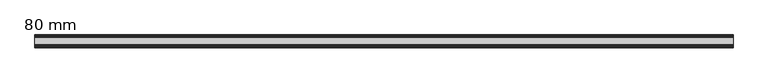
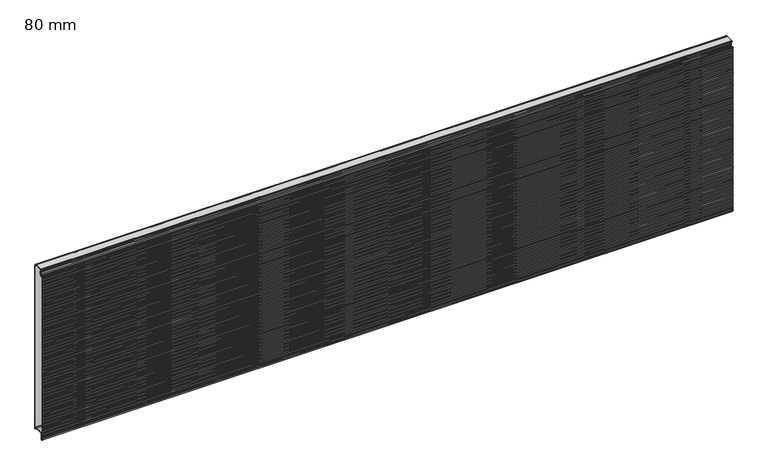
"""IFC4 building model written with IfcOpenShell, lengths in millimetres: plate geometry, HIANSA PANEL - H20.F05.001-HFM-PANELES DE FACHADA HOR - PANEL MICROPERFILADO - Panel de Muro Cortina : 80 mm."""

from ifc_helpers import new_model, si_unit, point, frame, frame_2d, origin, place, context, project, spatial, polyline, circle_curve, trimmed, segment, composite_curve, outline, extrude, source, transform, mapped, element, save


def plate_80_mm_c5f50b2e(model_context):
    return source(origin(), model_context, "Body", "SweptSolid", [
        extrude(outline(polyline([(-64.0928552, 1122.4810465), (-63.2950639, 1122.9800953), (-13.698739, 1122.9800953), (-12.9009477, 1122.4810465), (-64.0928552, 1122.4810465)])), frame((-2200.0, 0.0, 0.0), z_axis=(1.0, 0.0, 0.0), x_axis=(0.0, 1.0, 0.0)), (0.0, 0.0, 1.0), 4400.0),
        extrude(outline(polyline([(-64.0762276, 25.6210466), (-12.9205792, 25.6210466), (-13.7002597, 25.1210465), (-63.2965471, 25.1210465), (-64.0762276, 25.6210466)])), frame((-2200.0, 0.0, 0.0), z_axis=(1.0, 0.0, 0.0), x_axis=(0.0, 1.0, 0.0)), (0.0, 0.0, 1.0), 4400.0),
        extrude(outline(composite_curve([segment(polyline([(-69.4621895, -19.2009512), (-69.4621895, 22.7800953)]), True, "CONTINUOUS"), segment(trimmed(circle_curve(frame_2d((-66.6221895, 22.7800953)), 2.84), [point((-69.4621895, 22.7800953))], [point((-66.6221895, 25.6200953))], False, "CARTESIAN"), True, "CONTINUOUS"), segment(polyline([(-66.6221895, 25.6200953), (-64.0747442, 25.6200953), (-63.2950639, 25.1200953), (-66.6221895, 25.1200953)]), True, "CONTINUOUS"), segment(trimmed(circle_curve(frame_2d((-66.6221895, 22.7800953)), 2.34), [point((-66.6221895, 25.1200953))], [point((-68.9621895, 22.7800953))], True, "CARTESIAN"), True, "CONTINUOUS"), segment(polyline([(-68.9621895, 22.7800953), (-68.9621895, -19.0009512)]), True, "CONTINUOUS"), segment(trimmed(circle_curve(frame_2d((-69.6621895, -19.0009512)), 0.7), [point((-68.9621895, -19.0009512))], [point((-69.6621895, -19.7009512))], False, "CARTESIAN"), True, "CONTINUOUS"), segment(polyline([(-69.6621895, -19.7009512), (-73.4121895, -19.7009512)]), True, "CONTINUOUS"), segment(trimmed(circle_curve(frame_2d((-73.4121895, -19.0009512)), 0.7), [point((-73.4121895, -19.7009512))], [point((-74.1121895, -19.0009512))], False, "CARTESIAN"), True, "CONTINUOUS"), segment(polyline([(-74.1121895, -19.0009512), (-74.1121895, -10.8354413)]), True, "CONTINUOUS"), segment(trimmed(circle_curve(frame_2d((-75.4121895, -10.8354413)), 1.3), [point((-74.1121895, -10.8354413))], [point((-75.4121895, -9.5354413))], True, "CARTESIAN"), True, "CONTINUOUS"), segment(polyline([(-75.4121895, -9.5354413), (-77.8016102, -9.5354413)]), True, "CONTINUOUS"), segment(trimmed(circle_curve(frame_2d((-77.8016102, -7.9354413)), 1.6), [point((-77.8016102, -9.5354413))], [point((-79.3489873, -8.3424108))], False, "CARTESIAN"), True, "CONTINUOUS"), segment(polyline([(-79.3489873, -8.3424108), (-80.0, -5.8671339), (-78.9729658, 0.1648575), (-79.9990488, 6.1645587), (-78.9729147, 12.1645587), (-79.9990488, 18.1645587), (-78.9729147, 24.1645587), (-79.9990488, 30.1645587), (-78.9729147, 36.1645587), (-79.9990488, 42.1645587), (-78.9729147, 48.1645587), (-79.9990488, 54.1645587), (-78.9729147, 60.1645587), (-79.9990488, 66.1645587), (-78.9729147, 72.1645587), (-79.9990488, 78.1645587), (-78.9729147, 84.1645587), (-79.9990488, 90.1645587), (-78.9729147, 96.1645587), (-79.9990488, 102.1645587), (-78.9729147, 108.1645587), (-79.9990488, 114.1645587), (-78.9729147, 120.1645587), (-79.9990488, 126.1645587), (-78.9729147, 132.1645587), (-79.9990488, 138.1645587), (-78.9729147, 144.1645587), (-79.9990488, 150.1645587), (-78.9729147, 156.1645587), (-79.9990488, 162.1645587), (-78.9729147, 168.1645587), (-79.9990488, 174.1645587), (-78.9729147, 180.1645587), (-79.9990488, 186.1645587), (-78.9729147, 192.1645587), (-79.9990488, 198.1645587), (-78.9729147, 204.1645587), (-79.9990488, 210.1645587), (-78.9729147, 216.1645587), (-79.9990488, 222.1645587), (-78.9729147, 228.1645587), (-79.9990488, 234.1645587), (-78.9729147, 240.1645587), (-79.9990488, 246.1645587), (-78.9729147, 252.1645587), (-79.9990488, 258.1645587), (-78.9729147, 264.1645587), (-79.9990488, 270.1645587), (-78.9729147, 276.1645587), (-79.9990488, 282.1645587), (-78.9729147, 288.1645587), (-79.9990488, 294.1645587), (-78.9729147, 300.1645587), (-79.9990488, 306.1645587), (-78.9729147, 312.1645587), (-79.9990488, 318.1645587), (-78.9729147, 324.1645587), (-79.9990488, 330.1645587), (-78.9729147, 336.1645587), (-79.9990488, 342.1645587), (-78.9729147, 348.1645587), (-79.9990488, 354.1645587), (-78.9729147, 360.1645587), (-79.9990488, 366.1645587), (-78.9729147, 372.1645587), (-79.9990488, 378.1645587), (-78.9729147, 384.1645587), (-79.9990488, 390.1645587), (-78.9729147, 396.1645587), (-79.9990488, 402.1645587), (-78.9729147, 408.1645587), (-79.9990488, 414.1645587), (-78.9729147, 420.1645587), (-79.9990488, 426.1645587), (-78.9729147, 432.1645587), (-79.9990488, 438.1645587), (-78.9729147, 444.1645587), (-79.9990488, 450.1645587), (-78.9729147, 456.1645587), (-79.9990488, 462.1645587), (-78.9729147, 468.1645587), (-79.9990488, 474.1645587), (-78.9729147, 480.1645587), (-79.9990488, 486.1645587), (-78.9729147, 492.1645587), (-79.9990488, 498.1645587), (-78.9729147, 504.1645587), (-79.9990488, 510.1645587), (-78.9729147, 516.1645587), (-79.9990488, 522.1645587), (-78.9729147, 528.1645587), (-79.9990488, 534.1645587), (-78.9729147, 540.1645587), (-79.9990488, 546.1645587), (-78.9729147, 552.1645587), (-79.9990488, 558.1645587), (-78.9729147, 564.1645587), (-79.9990488, 570.1645587), (-78.9729147, 576.1645587), (-79.9990488, 582.1645587), (-78.9729147, 588.1645587), (-79.9990488, 594.1645587), (-78.9729147, 600.1645587), (-79.9990488, 606.1645587), (-78.9729147, 612.1645587), (-79.9990488, 618.1645587), (-78.9729147, 624.1645587), (-79.9990488, 630.1645587), (-78.9729147, 636.1645587), (-79.9990488, 642.1645587), (-78.9729147, 648.1645587), (-79.9990488, 654.1645587), (-78.9729147, 660.1645587), (-79.9990488, 666.1645587), (-78.9729147, 672.1645587), (-79.9990488, 678.1645587), (-78.9729147, 684.1645587), (-79.9990488, 690.1645587), (-78.9729147, 696.1645587), (-79.9990488, 702.1645587), (-78.9729147, 708.1645587), (-79.9990488, 714.1645587), (-78.9729147, 720.1645587), (-79.9990488, 726.1645587), (-78.9729147, 732.1645587), (-79.9990488, 738.1645587), (-78.9729147, 744.1645587), (-79.9990488, 750.1645587), (-78.9729147, 756.1645587), (-79.9990488, 762.1645587), (-78.9729147, 768.1645587), (-79.9990488, 774.1645587), (-78.9729147, 780.1645587), (-79.9990488, 786.1645587), (-78.9729147, 792.1645587), (-79.9990488, 798.1645587), (-78.9729147, 804.1645587), (-79.9990488, 810.1645587), (-78.9729147, 816.1645587), (-79.9990488, 822.1645587), (-78.9729147, 828.1645587), (-79.9990488, 834.1645587), (-78.9729147, 840.1645587), (-79.9990488, 846.1645587), (-78.9729147, 852.1645587), (-79.9990488, 858.1645587), (-78.9729147, 864.1645587), (-79.9990488, 870.1645587), (-78.9729147, 876.1645587), (-79.9990488, 882.1645587), (-78.9729147, 888.1645587), (-79.9990488, 894.1645587), (-78.9729147, 900.1645587), (-79.9990488, 906.1645587), (-78.9729147, 912.1645587), (-79.9990488, 918.1645587), (-78.9729147, 924.1645587), (-79.9990488, 930.1645587), (-78.9729147, 936.1645587), (-79.9990488, 942.1645587), (-78.9729147, 948.1645587), (-79.9990488, 954.1645587), (-78.9729147, 960.1645587), (-79.9990488, 966.1645587), (-78.9729147, 972.1645587), (-79.9990488, 978.1645587), (-78.9729147, 984.1645587), (-79.9990488, 990.1645587), (-78.9729147, 996.1645587), (-79.9990488, 1002.1645587), (-78.9729147, 1008.1645587), (-79.9990488, 1014.1645587), (-78.9729147, 1020.1645587), (-79.9990488, 1026.1645587), (-78.9729147, 1032.1645587), (-79.9990488, 1038.1645587), (-78.9729147, 1044.1645587), (-79.9990488, 1050.1645587), (-78.9729147, 1056.1645587), (-79.9990488, 1062.1645587), (-78.9729147, 1068.1645587), (-79.9990488, 1074.1645587), (-78.9729658, 1080.1642599), (-80.0, 1086.1962513), (-79.3489873, 1088.6715282)]), True, "CONTINUOUS"), segment(trimmed(circle_curve(frame_2d((-77.8016102, 1088.2645587)), 1.6), [point((-79.3489873, 1088.6715282))], [point((-77.8016102, 1089.8645587))], False, "CARTESIAN"), True, "CONTINUOUS"), segment(polyline([(-77.8016102, 1089.8645587), (-75.6621895, 1089.8645587)]), True, "CONTINUOUS"), segment(trimmed(circle_curve(frame_2d((-75.6621895, 1089.1645587)), 0.7), [point((-75.6621895, 1089.8645587))], [point((-74.9621895, 1089.1645587))], False, "CARTESIAN"), True, "CONTINUOUS"), segment(polyline([(-74.9621895, 1089.1645587), (-74.9621895, 1080.4990488)]), True, "CONTINUOUS"), segment(trimmed(circle_curve(frame_2d((-73.6621895, 1080.4990488)), 1.3), [point((-74.9621895, 1080.4990488))], [point((-73.6621895, 1079.1990488))], True, "CARTESIAN"), True, "CONTINUOUS"), segment(polyline([(-73.6621895, 1079.1990488), (-69.4121895, 1079.1990488)]), True, "CONTINUOUS"), segment(trimmed(circle_curve(frame_2d((-69.4121895, 1080.4990488)), 1.3), [point((-69.4121895, 1079.1990488))], [point((-68.1121895, 1080.4990488))], True, "CARTESIAN"), True, "CONTINUOUS"), segment(polyline([(-68.1121895, 1080.4990488), (-68.1121895, 1082.1003519)]), True, "CONTINUOUS"), segment(trimmed(circle_curve(frame_2d((-66.4121895, 1082.1003519)), 1.7), [point((-68.1121895, 1082.1003519))], [point((-67.3872694, 1083.4929104))], False, "CARTESIAN"), True, "CONTINUOUS"), segment(polyline([(-67.3872694, 1083.4929104), (-61.3297519, 1087.7344298)]), True, "CONTINUOUS"), segment(trimmed(circle_curve(frame_2d((-62.3621895, 1089.2089035)), 1.8), [point((-61.3297519, 1087.7344298))], [point((-60.5621895, 1089.2089035))], True, "CARTESIAN"), True, "CONTINUOUS"), segment(polyline([(-60.5621895, 1089.2089035), (-60.5621895, 1098.3598183), (-59.8467194, 1099.5990488)]), True, "CONTINUOUS"), segment(trimmed(circle_curve(frame_2d((-60.5395397, 1099.9990488)), 0.8), [point((-59.8467194, 1099.5990488))], [point((-59.8467194, 1100.3990488))], True, "CARTESIAN"), True, "CONTINUOUS"), segment(polyline([(-59.8467194, 1100.3990488), (-60.5621895, 1101.6382793), (-60.5621895, 1110.7891941)]), True, "CONTINUOUS"), segment(trimmed(circle_curve(frame_2d((-62.3621895, 1110.7891941)), 1.8), [point((-60.5621895, 1110.7891941))], [point((-61.3297519, 1112.2636677))], True, "CARTESIAN"), True, "CONTINUOUS"), segment(polyline([(-61.3297519, 1112.2636677), (-67.3872694, 1116.5051872)]), True, "CONTINUOUS"), segment(trimmed(circle_curve(frame_2d((-66.4121895, 1117.8977457)), 1.7), [point((-67.3872694, 1116.5051872))], [point((-68.1121895, 1117.8977457))], False, "CARTESIAN"), True, "CONTINUOUS"), segment(polyline([(-68.1121895, 1117.8977457), (-68.1121895, 1121.2800953)]), True, "CONTINUOUS"), segment(trimmed(circle_curve(frame_2d((-66.4121895, 1121.2800953)), 1.7), [point((-68.1121895, 1121.2800953))], [point((-66.4121895, 1122.9800953))], False, "CARTESIAN"), True, "CONTINUOUS"), segment(polyline([(-66.4121895, 1122.9800953), (-63.2950639, 1122.9800953), (-64.0943758, 1122.4800953), (-66.4121895, 1122.4800953)]), True, "CONTINUOUS"), segment(trimmed(circle_curve(frame_2d((-66.4121895, 1121.2800953)), 1.2), [point((-66.4121895, 1122.4800953))], [point((-67.6121895, 1121.2800953))], True, "CARTESIAN"), True, "CONTINUOUS"), segment(polyline([(-67.6121895, 1121.2800953), (-67.6121895, 1117.8977457)]), True, "CONTINUOUS"), segment(trimmed(circle_curve(frame_2d((-66.4121895, 1117.8977457)), 1.2), [point((-67.6121895, 1117.8977457))], [point((-67.1004812, 1116.9147632))], True, "CARTESIAN"), True, "CONTINUOUS"), segment(polyline([(-67.1004812, 1116.9147632), (-61.0429637, 1112.6732438)]), True, "CONTINUOUS"), segment(trimmed(circle_curve(frame_2d((-62.3621895, 1110.7891941)), 2.3), [point((-61.0429637, 1112.6732438))], [point((-60.0621895, 1110.7891941))], False, "CARTESIAN"), True, "CONTINUOUS"), segment(polyline([(-60.0621895, 1110.7891941), (-60.0621895, 1101.7722539), (-59.4137067, 1100.6490488)]), True, "CONTINUOUS"), segment(trimmed(circle_curve(frame_2d((-60.5395397, 1099.9990488)), 1.3), [point((-59.4137067, 1100.6490488))], [point((-59.4137067, 1099.3490488))], False, "CARTESIAN"), True, "CONTINUOUS"), segment(polyline([(-59.4137067, 1099.3490488), (-60.0621895, 1098.2258437), (-60.0621895, 1089.2089035)]), True, "CONTINUOUS"), segment(trimmed(circle_curve(frame_2d((-62.3621895, 1089.2089035)), 2.3), [point((-60.0621895, 1089.2089035))], [point((-61.0429637, 1087.3248538))], False, "CARTESIAN"), True, "CONTINUOUS"), segment(polyline([(-61.0429637, 1087.3248538), (-67.1004812, 1083.0833344)]), True, "CONTINUOUS"), segment(trimmed(circle_curve(frame_2d((-66.4121895, 1082.1003519)), 1.2), [point((-67.1004812, 1083.0833344))], [point((-67.6121895, 1082.1003519))], True, "CARTESIAN"), True, "CONTINUOUS"), segment(polyline([(-67.6121895, 1082.1003519), (-67.6121895, 1080.4990488)]), True, "CONTINUOUS"), segment(trimmed(circle_curve(frame_2d((-69.4121895, 1080.4990488)), 1.8), [point((-67.6121895, 1080.4990488))], [point((-69.4121895, 1078.6990488))], False, "CARTESIAN"), True, "CONTINUOUS"), segment(polyline([(-69.4121895, 1078.6990488), (-73.6621895, 1078.6990488)]), True, "CONTINUOUS"), segment(trimmed(circle_curve(frame_2d((-73.6621895, 1080.4990488)), 1.8), [point((-73.6621895, 1078.6990488))], [point((-75.4621895, 1080.4990488))], False, "CARTESIAN"), True, "CONTINUOUS"), segment(polyline([(-75.4621895, 1080.4990488), (-75.4621895, 1089.3645587), (-77.8016102, 1089.3645587)]), True, "CONTINUOUS"), segment(trimmed(circle_curve(frame_2d((-77.8016102, 1088.2645587)), 1.1), [point((-77.8016102, 1089.3645587))], [point((-78.8654319, 1088.5443502))], True, "CARTESIAN"), True, "CONTINUOUS"), segment(polyline([(-78.8654319, 1088.5443502), (-79.4889499, 1086.1736137), (-78.4657383, 1080.1640732), (-79.4917893, 1074.1645587), (-78.4656553, 1068.1645587), (-79.4917893, 1062.1645587), (-78.4656553, 1056.1645587), (-79.4917893, 1050.1645587), (-78.4656553, 1044.1645587), (-79.4917893, 1038.1645587), (-78.4656553, 1032.1645587), (-79.4917893, 1026.1645587), (-78.4656553, 1020.1645587), (-79.4917893, 1014.1645587), (-78.4656553, 1008.1645587), (-79.4917893, 1002.1645587), (-78.4656553, 996.1645587), (-79.4917893, 990.1645587), (-78.4656553, 984.1645587), (-79.4917893, 978.1645587), (-78.4656553, 972.1645587), (-79.4917893, 966.1645587), (-78.4656553, 960.1645587), (-79.4917893, 954.1645587), (-78.4656553, 948.1645587), (-79.4917893, 942.1645587), (-78.4656553, 936.1645587), (-79.4917893, 930.1645587), (-78.4656553, 924.1645587), (-79.4917893, 918.1645587), (-78.4656553, 912.1645587), (-79.4917893, 906.1645587), (-78.4656553, 900.1645587), (-79.4917893, 894.1645587), (-78.4656553, 888.1645587), (-79.4917893, 882.1645587), (-78.4656553, 876.1645587), (-79.4917893, 870.1645587), (-78.4656553, 864.1645587), (-79.4917893, 858.1645587), (-78.4656553, 852.1645587), (-79.4917893, 846.1645587), (-78.4656553, 840.1645587), (-79.4917893, 834.1645587), (-78.4656553, 828.1645587), (-79.4917893, 822.1645587), (-78.4656553, 816.1645587), (-79.4917893, 810.1645587), (-78.4656553, 804.1645587), (-79.4917893, 798.1645587), (-78.4656553, 792.1645587), (-79.4917893, 786.1645587), (-78.4656553, 780.1645587), (-79.4917893, 774.1645587), (-78.4656553, 768.1645587), (-79.4917893, 762.1645587), (-78.4656553, 756.1645587), (-79.4917893, 750.1645587), (-78.4656553, 744.1645587), (-79.4917893, 738.1645587), (-78.4656553, 732.1645587), (-79.4917893, 726.1645587), (-78.4656553, 720.1645587), (-79.4917893, 714.1645587), (-78.4656553, 708.1645587), (-79.4917893, 702.1645587), (-78.4656553, 696.1645587), (-79.4917893, 690.1645587), (-78.4656553, 684.1645587), (-79.4917893, 678.1645587), (-78.4656553, 672.1645587), (-79.4917893, 666.1645587), (-78.4656553, 660.1645587), (-79.4917893, 654.1645587), (-78.4656553, 648.1645587), (-79.4917893, 642.1645587), (-78.4656553, 636.1645587), (-79.4917893, 630.1645587), (-78.4656553, 624.1645587), (-79.4917893, 618.1645587), (-78.4656553, 612.1645587), (-79.4917893, 606.1645587), (-78.4656553, 600.1645587), (-79.4917893, 594.1645587), (-78.4656553, 588.1645587), (-79.4917893, 582.1645587), (-78.4656553, 576.1645587), (-79.4917893, 570.1645587), (-78.4656553, 564.1645587), (-79.4917893, 558.1645587), (-78.4656553, 552.1645587), (-79.4917893, 546.1645587), (-78.4656553, 540.1645587), (-79.4917893, 534.1645587), (-78.4656553, 528.1645587), (-79.4917893, 522.1645587), (-78.4656553, 516.1645587), (-79.4917893, 510.1645587), (-78.4656553, 504.1645587), (-79.4917893, 498.1645587), (-78.4656553, 492.1645587), (-79.4917893, 486.1645587), (-78.4656553, 480.1645587), (-79.4917893, 474.1645587), (-78.4656553, 468.1645587), (-79.4917893, 462.1645587), (-78.4656553, 456.1645587), (-79.4917893, 450.1645587), (-78.4656553, 444.1645587), (-79.4917893, 438.1645587), (-78.4656553, 432.1645587), (-79.4917893, 426.1645587), (-78.4656553, 420.1645587), (-79.4917893, 414.1645587), (-78.4656553, 408.1645587), (-79.4917893, 402.1645587), (-78.4656553, 396.1645587), (-79.4917893, 390.1645587), (-78.4656553, 384.1645587), (-79.4917893, 378.1645587), (-78.4656553, 372.1645587), (-79.4917893, 366.1645587), (-78.4656553, 360.1645587), (-79.4917893, 354.1645587), (-78.4656553, 348.1645587), (-79.4917893, 342.1645587), (-78.4656553, 336.1645587), (-79.4917893, 330.1645587), (-78.4656553, 324.1645587), (-79.4917893, 318.1645587), (-78.4656553, 312.1645587), (-79.4917893, 306.1645587), (-78.4656553, 300.1645587), (-79.4917893, 294.1645587), (-78.4656553, 288.1645587), (-79.4917893, 282.1645587), (-78.4656553, 276.1645587), (-79.4917893, 270.1645587), (-78.4656553, 264.1645587), (-79.4917893, 258.1645587), (-78.4656553, 252.1645587), (-79.4917893, 246.1645587), (-78.4656553, 240.1645587), (-79.4917893, 234.1645587), (-78.4656553, 228.1645587), (-79.4917893, 222.1645587), (-78.4656553, 216.1645587), (-79.4917893, 210.1645587), (-78.4656553, 204.1645587), (-79.4917893, 198.1645587), (-78.4656553, 192.1645587), (-79.4917893, 186.1645587), (-78.4656553, 180.1645587), (-79.4917893, 174.1645587), (-78.4656553, 168.1645587), (-79.4917893, 162.1645587), (-78.4656553, 156.1645587), (-79.4917893, 150.1645587), (-78.4656553, 144.1645587), (-79.4917893, 138.1645587), (-78.4656553, 132.1645587), (-79.4917893, 126.1645587), (-78.4656553, 120.1645587), (-79.4917893, 114.1645587), (-78.4656553, 108.1645587), (-79.4917893, 102.1645587), (-78.4656553, 96.1645587), (-79.4917893, 90.1645587), (-78.4656553, 84.1645587), (-79.4917893, 78.1645587), (-78.4656553, 72.1645587), (-79.4917893, 66.1645587), (-78.4656553, 60.1645587), (-79.4917893, 54.1645587), (-78.4656553, 48.1645587), (-79.4917893, 42.1645587), (-78.4656553, 36.1645587), (-79.4917893, 30.1645587), (-78.4656553, 24.1645587), (-79.4917893, 18.1645587), (-78.4656553, 12.1645587), (-79.4917893, 6.1645587), (-78.4657383, 0.1650443), (-79.4889499, -5.8444963), (-78.8654319, -8.2152328)]), True, "CONTINUOUS"), segment(trimmed(circle_curve(frame_2d((-77.8016102, -7.9354413)), 1.1), [point((-78.8654319, -8.2152328))], [point((-77.8016102, -9.0354413))], True, "CARTESIAN"), True, "CONTINUOUS"), segment(polyline([(-77.8016102, -9.0354413), (-75.4121895, -9.0354413)]), True, "CONTINUOUS"), segment(trimmed(circle_curve(frame_2d((-75.4121895, -10.8354413)), 1.8), [point((-75.4121895, -9.0354413))], [point((-73.6121895, -10.8354413))], False, "CARTESIAN"), True, "CONTINUOUS"), segment(polyline([(-73.6121895, -10.8354413), (-73.6121895, -19.2009512), (-69.4621895, -19.2009512)]), True, "CONTINUOUS")], self_intersect=False)), frame((-2200.0, 0.0, 0.0), z_axis=(1.0, 0.0, 0.0), x_axis=(0.0, 1.0, 0.0)), (0.0, 0.0, 1.0), 4400.0),
        extrude(outline(composite_curve([segment(polyline([(-75.4131407, -9.0344901), (-77.8025614, -9.0344901)]), True, "CONTINUOUS"), segment(trimmed(circle_curve(frame_2d((-77.8025614, -7.9344901)), 1.1), [point((-77.8025614, -9.0344901))], [point((-78.8663831, -8.2142816))], False, "CARTESIAN"), True, "CONTINUOUS"), segment(polyline([(-78.8663831, -8.2142816), (-79.4899011, -5.8435451), (-78.4666895, 0.1659955), (-79.4927406, 6.1655099), (-78.4666065, 12.1655099), (-79.4927406, 18.1655099), (-78.4666065, 24.1655099), (-79.4927406, 30.1655099), (-78.4666065, 36.1655099), (-79.4927406, 42.1655099), (-78.4666065, 48.1655099), (-79.4927406, 54.1655099), (-78.4666065, 60.1655099), (-79.4927406, 66.1655099), (-78.4666065, 72.1655099), (-79.4927406, 78.1655099), (-78.4666065, 84.1655099), (-79.4927406, 90.1655099), (-78.4666065, 96.1655099), (-79.4927406, 102.1655099), (-78.4666065, 108.1655099), (-79.4927406, 114.1655099), (-78.4666065, 120.1655099), (-79.4927406, 126.1655099), (-78.4666065, 132.1655099), (-79.4927406, 138.1655099), (-78.4666065, 144.1655099), (-79.4927406, 150.1655099), (-78.4666065, 156.1655099), (-79.4927406, 162.1655099), (-78.4666065, 168.1655099), (-79.4927406, 174.1655099), (-78.4666065, 180.1655099), (-79.4927406, 186.1655099), (-78.4666065, 192.1655099), (-79.4927406, 198.1655099), (-78.4666065, 204.1655099), (-79.4927406, 210.1655099), (-78.4666065, 216.1655099), (-79.4927406, 222.1655099), (-78.4666065, 228.1655099), (-79.4927406, 234.1655099), (-78.4666065, 240.1655099), (-79.4927406, 246.1655099), (-78.4666065, 252.1655099), (-79.4927406, 258.1655099), (-78.4666065, 264.1655099), (-79.4927406, 270.1655099), (-78.4666065, 276.1655099), (-79.4927406, 282.1655099), (-78.4666065, 288.1655099), (-79.4927406, 294.1655099), (-78.4666065, 300.1655099), (-79.4927406, 306.1655099), (-78.4666065, 312.1655099), (-79.4927406, 318.1655099), (-78.4666065, 324.1655099), (-79.4927406, 330.1655099), (-78.4666065, 336.1655099), (-79.4927406, 342.1655099), (-78.4666065, 348.1655099), (-79.4927406, 354.1655099), (-78.4666065, 360.1655099), (-79.4927406, 366.1655099), (-78.4666065, 372.1655099), (-79.4927406, 378.1655099), (-78.4666065, 384.1655099), (-79.4927406, 390.1655099), (-78.4666065, 396.1655099), (-79.4927406, 402.1655099), (-78.4666065, 408.1655099), (-79.4927406, 414.1655099), (-78.4666065, 420.1655099), (-79.4927406, 426.1655099), (-78.4666065, 432.1655099), (-79.4927406, 438.1655099), (-78.4666065, 444.1655099), (-79.4927406, 450.1655099), (-78.4666065, 456.1655099), (-79.4927406, 462.1655099), (-78.4666065, 468.1655099), (-79.4927406, 474.1655099), (-78.4666065, 480.1655099), (-79.4927406, 486.1655099), (-78.4666065, 492.1655099), (-79.4927406, 498.1655099), (-78.4666065, 504.1655099), (-79.4927406, 510.1655099), (-78.4666065, 516.1655099), (-79.4927406, 522.1655099), (-78.4666065, 528.1655099), (-79.4927406, 534.1655099), (-78.4666065, 540.1655099), (-79.4927406, 546.1655099), (-78.4666065, 552.1655099), (-79.4927406, 558.1655099), (-78.4666065, 564.1655099), (-79.4927406, 570.1655099), (-78.4666065, 576.1655099), (-79.4927406, 582.1655099), (-78.4666065, 588.1655099), (-79.4927406, 594.1655099), (-78.4666065, 600.1655099), (-79.4927406, 606.1655099), (-78.4666065, 612.1655099), (-79.4927406, 618.1655099), (-78.4666065, 624.1655099), (-79.4927406, 630.1655099), (-78.4666065, 636.1655099), (-79.4927406, 642.1655099), (-78.4666065, 648.1655099), (-79.4927406, 654.1655099), (-78.4666065, 660.1655099), (-79.4927406, 666.1655099), (-78.4666065, 672.1655099), (-79.4927406, 678.1655099), (-78.4666065, 684.1655099), (-79.4927406, 690.1655099), (-78.4666065, 696.1655099), (-79.4927406, 702.1655099), (-78.4666065, 708.1655099), (-79.4927406, 714.1655099), (-78.4666065, 720.1655099), (-79.4927406, 726.1655099), (-78.4666065, 732.1655099), (-79.4927406, 738.1655099), (-78.4666065, 744.1655099), (-79.4927406, 750.1655099), (-78.4666065, 756.1655099), (-79.4927406, 762.1655099), (-78.4666065, 768.1655099), (-79.4927406, 774.1655099), (-78.4666065, 780.1655099), (-79.4927406, 786.1655099), (-78.4666065, 792.1655099), (-79.4927406, 798.1655099), (-78.4666065, 804.1655099), (-79.4927406, 810.1655099), (-78.4666065, 816.1655099), (-79.4927406, 822.1655099), (-78.4666065, 828.1655099), (-79.4927406, 834.1655099), (-78.4666065, 840.1655099), (-79.4927406, 846.1655099), (-78.4666065, 852.1655099), (-79.4927406, 858.1655099), (-78.4666065, 864.1655099), (-79.4927406, 870.1655099), (-78.4666065, 876.1655099), (-79.4927406, 882.1655099), (-78.4666065, 888.1655099), (-79.4927406, 894.1655099), (-78.4666065, 900.1655099), (-79.4927406, 906.1655099), (-78.4666065, 912.1655099), (-79.4927406, 918.1655099), (-78.4666065, 924.1655099), (-79.4927406, 930.1655099), (-78.4666065, 936.1655099), (-79.4927406, 942.1655099), (-78.4666065, 948.1655099), (-79.4927406, 954.1655099), (-78.4666065, 960.1655099), (-79.4927406, 966.1655099), (-78.4666065, 972.1655099), (-79.4927406, 978.1655099), (-78.4666065, 984.1655099), (-79.4927406, 990.1655099), (-78.4666065, 996.1655099), (-79.4927406, 1002.1655099), (-78.4666065, 1008.1655099), (-79.4927406, 1014.1655099), (-78.4666065, 1020.1655099), (-79.4927406, 1026.1655099), (-78.4666065, 1032.1655099), (-79.4927406, 1038.1655099), (-78.4666065, 1044.1655099), (-79.4927406, 1050.1655099), (-78.4666065, 1056.1655099), (-79.4927406, 1062.1655099), (-78.4666065, 1068.1655099), (-79.4927406, 1074.1655099), (-78.4666895, 1080.1650244), (-79.4899011, 1086.1745649), (-78.8663831, 1088.5453014)]), True, "CONTINUOUS"), segment(trimmed(circle_curve(frame_2d((-77.8025614, 1088.2655099)), 1.1), [point((-78.8663831, 1088.5453014))], [point((-77.8025614, 1089.3655099))], False, "CARTESIAN"), True, "CONTINUOUS"), segment(polyline([(-77.8025614, 1089.3655099), (-75.4631407, 1089.3655099), (-75.4631407, 1080.5)]), True, "CONTINUOUS"), segment(trimmed(circle_curve(frame_2d((-73.6631407, 1080.5)), 1.8), [point((-75.4631407, 1080.5))], [point((-73.6631407, 1078.7))], True, "CARTESIAN"), True, "CONTINUOUS"), segment(polyline([(-73.6631407, 1078.7), (-69.4131407, 1078.7)]), True, "CONTINUOUS"), segment(trimmed(circle_curve(frame_2d((-69.4131407, 1080.5)), 1.8), [point((-69.4131407, 1078.7))], [point((-67.6131407, 1080.5))], True, "CARTESIAN"), True, "CONTINUOUS"), segment(polyline([(-67.6131407, 1080.5), (-67.6131407, 1082.1013031)]), True, "CONTINUOUS"), segment(trimmed(circle_curve(frame_2d((-66.4131407, 1082.1013031)), 1.2), [point((-67.6131407, 1082.1013031))], [point((-67.1014324, 1083.0842856))], False, "CARTESIAN"), True, "CONTINUOUS"), segment(polyline([(-67.1014324, 1083.0842856), (-61.0439149, 1087.325805)]), True, "CONTINUOUS"), segment(trimmed(circle_curve(frame_2d((-62.3631408, 1089.2098547)), 2.3000001), [point((-61.0439149, 1087.325805))], [point((-60.0631407, 1089.2098547))], True, "CARTESIAN"), True, "CONTINUOUS"), segment(polyline([(-60.0631407, 1089.2098547), (-60.0631407, 1098.2267949), (-59.4146579, 1099.35)]), True, "CONTINUOUS"), segment(trimmed(circle_curve(frame_2d((-60.5404909, 1100.0)), 1.3), [point((-59.4146579, 1099.35))], [point((-59.4146579, 1100.65))], True, "CARTESIAN"), True, "CONTINUOUS"), segment(polyline([(-59.4146579, 1100.65), (-60.0631407, 1101.7732051), (-60.0631407, 1110.7901453)]), True, "CONTINUOUS"), segment(trimmed(circle_curve(frame_2d((-62.3631407, 1110.7901453)), 2.2999999), [point((-60.0631407, 1110.7901453))], [point((-61.0439149, 1112.6741949))], True, "CARTESIAN"), True, "CONTINUOUS"), segment(polyline([(-61.0439149, 1112.6741949), (-67.1014324, 1116.9157143)]), True, "CONTINUOUS"), segment(trimmed(circle_curve(frame_2d((-66.4131408, 1117.8986968)), 1.1999999), [point((-67.1014324, 1116.9157143))], [point((-67.6131407, 1117.8986968))], False, "CARTESIAN"), True, "CONTINUOUS"), segment(polyline([(-67.6131407, 1117.8986968), (-67.6131407, 1121.2810465)]), True, "CONTINUOUS"), segment(trimmed(circle_curve(frame_2d((-66.4131407, 1121.2810465)), 1.2000001), [point((-67.6131407, 1121.2810465))], [point((-66.4131407, 1122.4810465))], False, "CARTESIAN"), True, "CONTINUOUS"), segment(polyline([(-66.4131407, 1122.4810465), (-7.75, 1122.4810465)]), True, "CONTINUOUS"), segment(trimmed(circle_curve(frame_2d((-7.75, 1121.4810465)), 1.0), [point((-7.75, 1122.4810465))], [point((-6.75, 1121.4810465))], False, "CARTESIAN"), True, "CONTINUOUS"), segment(polyline([(-6.75, 1121.4810465), (-6.75, 1115.3317319)]), True, "CONTINUOUS"), segment(trimmed(circle_curve(frame_2d((-4.746, 1115.3317319)), 2.004), [point((-6.75, 1115.3317319))], [point((-4.746, 1113.3277319))], True, "CARTESIAN"), True, "CONTINUOUS"), segment(polyline([(-4.746, 1113.3277319), (-1.5, 1113.3277319)]), True, "CONTINUOUS"), segment(trimmed(circle_curve(frame_2d((-1.5, 1112.3277319)), 1.0), [point((-1.5, 1113.3277319))], [point((-0.5, 1112.3277319))], False, "CARTESIAN"), True, "CONTINUOUS"), segment(polyline([(-0.5, 1112.3277319), (-0.5, 1087.4488708), (-1.5, 1084.4488708), (-1.5, 1044.2865931), (-0.5, 1041.2865931), (-0.5, 996.4488708), (-1.5, 993.4488708), (-1.5, 953.2865931), (-0.5, 950.2865931), (-0.5, 905.4488708), (-1.5, 902.4488708), (-1.5, 862.2865931), (-0.5, 859.2865931), (-0.5, 814.4488708), (-1.5, 811.4488708), (-1.5, 771.2865931), (-0.5, 768.2865931), (-0.5, 723.4488708), (-1.5, 720.4488708), (-1.5, 680.2865931), (-0.5, 677.2865931), (-0.5, 632.4488708), (-1.5, 629.4488708), (-1.5, 589.2865931), (-0.5, 586.2865931), (-0.5, 541.4488708), (-1.5, 538.4488708), (-1.5, 498.2865931), (-0.5, 495.2865931), (-0.5, 450.4488708), (-1.5, 447.4488708), (-1.5, 407.2865931), (-0.5, 404.2865931), (-0.5, 359.4488708), (-1.5, 356.4488708), (-1.5, 316.2865931), (-0.5, 313.2865931), (-0.5, 268.4488708), (-1.5, 265.4488708), (-1.5, 225.2865931), (-0.5, 222.2865931), (-0.5, 177.4488708), (-1.5, 174.4488708), (-1.5, 134.2865931), (-0.5, 131.2865931), (-0.5, 86.4488708), (-1.5, 83.4488708), (-1.5, 43.2865931), (-0.4999995, 40.2865931), (-0.4999995, 15.3677318)]), True, "CONTINUOUS"), segment(trimmed(circle_curve(frame_2d((-1.4999993, 15.3677318)), 0.9999997), [point((-0.4999995, 15.3677318))], [point((-1.4999993, 14.3677321))], False, "CARTESIAN"), True, "CONTINUOUS"), segment(polyline([(-1.4999993, 14.3677321), (-4.4999993, 14.367726)]), True, "CONTINUOUS"), segment(trimmed(circle_curve(frame_2d((-4.4999993, 15.367732)), 1.0000061), [point((-4.4999993, 14.367726))], [point((-5.5000054, 15.367732))], False, "CARTESIAN"), True, "CONTINUOUS"), segment(polyline([(-5.5000054, 15.367732), (-5.5000054, 23.5810465)]), True, "CONTINUOUS"), segment(trimmed(circle_curve(frame_2d((-7.5400056, 23.5810465)), 2.0400001), [point((-5.5000054, 23.5810465))], [point((-7.5400056, 25.6210466))], True, "CARTESIAN"), True, "CONTINUOUS"), segment(polyline([(-7.5400056, 25.6210466), (-66.6231406, 25.6210466)]), True, "CONTINUOUS"), segment(trimmed(circle_curve(frame_2d((-66.6231406, 22.7810466)), 2.84), [point((-66.6231406, 25.6210466))], [point((-69.4631407, 22.7810466))], True, "CARTESIAN"), True, "CONTINUOUS"), segment(polyline([(-69.4631407, 22.7810466), (-69.4631407, -19.2), (-73.6131407, -19.2), (-73.6131407, -10.8344901)]), True, "CONTINUOUS"), segment(trimmed(circle_curve(frame_2d((-75.4131407, -10.8344901)), 1.8), [point((-73.6131407, -10.8344901))], [point((-75.4131407, -9.0344901))], True, "CARTESIAN"), True, "CONTINUOUS")], self_intersect=False)), frame((-2200.0, 0.0, 0.0), z_axis=(1.0, 0.0, 0.0), x_axis=(0.0, 1.0, 0.0)), (0.0, 0.0, 1.0), 4400.0),
        extrude(outline(composite_curve([segment(trimmed(circle_curve(frame_2d((-7.5400057, 23.5810465)), 2.04), [point((-7.5400057, 25.6210465))], [point((-5.5000057, 23.5810465))], False, "CARTESIAN"), True, "CONTINUOUS"), segment(polyline([(-5.5000057, 23.5810465), (-5.5000057, 15.3677319)]), True, "CONTINUOUS"), segment(trimmed(circle_curve(frame_2d((-4.5, 15.3677319)), 1.0000057), [point((-5.5000057, 15.3677319))], [point((-4.4999981, 14.3677262))], True, "CARTESIAN"), True, "CONTINUOUS"), segment(polyline([(-4.4999981, 14.3677262), (-1.4999981, 14.3677319)]), True, "CONTINUOUS"), segment(trimmed(circle_curve(frame_2d((-1.5, 15.3677319)), 1.0), [point((-1.4999981, 14.3677319))], [point((-0.5, 15.3677319))], True, "CARTESIAN"), True, "CONTINUOUS"), segment(polyline([(-0.5, 15.3677319), (-0.5, 40.2865931), (-1.5, 43.2865931), (-1.5, 83.4488708), (-0.5, 86.4488708), (-0.5, 131.2865931), (-1.5, 134.2865931), (-1.5, 174.4488708), (-0.5, 177.4488708), (-0.5, 222.2865931), (-1.5, 225.2865931), (-1.5, 265.4488708), (-0.5, 268.4488708), (-0.5, 313.2865931), (-1.5, 316.2865931), (-1.5, 356.4488708), (-0.5, 359.4488708), (-0.5, 404.2865931), (-1.5, 407.2865931), (-1.5, 447.4488708), (-0.5, 450.4488708), (-0.5, 495.2865931), (-1.5, 498.2865931), (-1.5, 538.4488708), (-0.5, 541.4488708), (-0.5, 586.2865931), (-1.5, 589.2865931), (-1.5, 629.4488708), (-0.5, 632.4488708), (-0.5, 677.2865931), (-1.5, 680.2865931), (-1.5, 720.4488708), (-0.5, 723.4488708), (-0.5, 768.2865931), (-1.5, 771.2865931), (-1.5, 811.4488708), (-0.5, 814.4488708), (-0.5, 859.2865931), (-1.5, 862.2865931), (-1.5, 902.4488708), (-0.5, 905.4488708), (-0.5, 950.2865931), (-1.5, 953.2865931), (-1.5, 993.4488708), (-0.5, 996.4488708), (-0.5, 1041.2865931), (-1.5, 1044.2865931), (-1.5, 1084.4488708), (-0.5, 1087.4488708), (-0.5, 1112.3277319)]), True, "CONTINUOUS"), segment(trimmed(circle_curve(frame_2d((-1.5, 1112.3277319)), 1.0), [point((-0.5, 1112.3277319))], [point((-1.5, 1113.3277319))], True, "CARTESIAN"), True, "CONTINUOUS"), segment(polyline([(-1.5, 1113.3277319), (-4.746, 1113.3277319)]), True, "CONTINUOUS"), segment(trimmed(circle_curve(frame_2d((-4.746, 1115.3317319)), 2.004), [point((-4.746, 1113.3277319))], [point((-6.75, 1115.3317319))], False, "CARTESIAN"), True, "CONTINUOUS"), segment(polyline([(-6.75, 1115.3317319), (-6.75, 1121.4810465)]), True, "CONTINUOUS"), segment(trimmed(circle_curve(frame_2d((-7.75, 1121.4810465)), 1.0), [point((-6.75, 1121.4810465))], [point((-7.75, 1122.4810465))], True, "CARTESIAN"), True, "CONTINUOUS"), segment(polyline([(-7.75, 1122.4810465), (-12.9009477, 1122.4810465), (-13.7002597, 1122.9810465), (-7.7500057, 1122.9810465)]), True, "CONTINUOUS"), segment(trimmed(circle_curve(frame_2d((-7.7500057, 1121.4810465)), 1.5), [point((-7.7500057, 1122.9810465))], [point((-6.2500057, 1121.4810465))], False, "CARTESIAN"), True, "CONTINUOUS"), segment(polyline([(-6.2500057, 1121.4810465), (-6.2500057, 1115.331727)]), True, "CONTINUOUS"), segment(trimmed(circle_curve(frame_2d((-4.7460057, 1115.331727)), 1.504), [point((-6.2500057, 1115.331727))], [point((-4.7460034, 1113.827727))], True, "CARTESIAN"), True, "CONTINUOUS"), segment(polyline([(-4.7460034, 1113.827727), (-1.5000023, 1113.8277319)]), True, "CONTINUOUS"), segment(trimmed(circle_curve(frame_2d((-1.5, 1112.3277319)), 1.5), [point((-1.5000023, 1113.8277319))], [point((0.0, 1112.3277319))], False, "CARTESIAN"), True, "CONTINUOUS"), segment(polyline([(0.0, 1112.3277319), (0.0, 1087.3677319), (-1.0, 1084.3677319), (-1.0, 1044.3677319), (0.0, 1041.3677319), (0.0, 996.3677319), (-1.0, 993.3677319), (-1.0, 953.3677319), (0.0, 950.3677319), (0.0, 905.3677319), (-1.0, 902.3677319), (-1.0, 862.3677319), (0.0, 859.3677319), (0.0, 814.3677319), (-1.0, 811.3677319), (-1.0, 771.3677319), (0.0, 768.3677319), (0.0, 723.3677319), (-1.0, 720.3677319), (-1.0, 680.3677319), (0.0, 677.3677319), (0.0, 632.3677319), (-1.0, 629.3677319), (-1.0, 589.3677319), (0.0, 586.3677319), (0.0, 541.3677319), (-1.0, 538.3677319), (-1.0, 498.3677319), (0.0, 495.3677319), (0.0, 450.3677319), (-1.0, 447.3677319), (-1.0, 407.3677319), (0.0, 404.3677319), (0.0, 359.3677319), (-1.0, 356.3677319), (-1.0, 316.3677319), (0.0, 313.3677319), (0.0, 268.3677319), (-1.0, 265.3677319), (-1.0, 225.3677319), (0.0, 222.3677319), (0.0, 177.3677319), (-1.0, 174.3677319), (-1.0, 134.3677319), (0.0, 131.3677319), (0.0, 86.3677319), (-1.0, 83.3677319), (-1.0, 43.3677319), (0.0, 40.3677319), (0.0, 15.3677319)]), True, "CONTINUOUS"), segment(trimmed(circle_curve(frame_2d((-1.5, 15.3677319)), 1.5), [point((0.0, 15.3677319))], [point((-1.5, 13.8677319))], False, "CARTESIAN"), True, "CONTINUOUS"), segment(polyline([(-1.5, 13.8677319), (-4.5, 13.8677319)]), True, "CONTINUOUS"), segment(trimmed(circle_curve(frame_2d((-4.5, 15.3677319)), 1.5), [point((-4.5, 13.8677319))], [point((-6.0, 15.3677319))], False, "CARTESIAN"), True, "CONTINUOUS"), segment(polyline([(-6.0, 15.3677319), (-6.0, 23.5810465)]), True, "CONTINUOUS"), segment(trimmed(circle_curve(frame_2d((-7.54, 23.5810465)), 1.54), [point((-6.0, 23.5810465))], [point((-7.54, 25.1210465))], True, "CARTESIAN"), True, "CONTINUOUS"), segment(polyline([(-7.54, 25.1210465), (-13.7002597, 25.1210465), (-12.9205793, 25.6210465), (-7.5400057, 25.6210465)]), True, "CONTINUOUS")], self_intersect=False)), frame((-2200.0, 0.0, 0.0), z_axis=(1.0, 0.0, 0.0), x_axis=(0.0, 1.0, 0.0)), (0.0, 0.0, 1.0), 4400.0),
    ])


if __name__ == "__main__":
    model = new_model("IFC4")
    model_context = context("Model", 3, world=origin())
    ifc_project = project(units=[si_unit("LENGTHUNIT", "METRE", prefix="MILLI")], contexts=[model_context])
    site = spatial("IfcSite", under=ifc_project)
    building = spatial("IfcBuilding", under=site)
    placement = place(None, origin())
    plate_80_mm_shape = plate_80_mm_c5f50b2e(model_context)
    element("IfcPlate", 1, ObjectType="HIANSA PANEL - H20.F05.001-HFM-PANELES DE FACHADA HOR - PANEL MICROPERFILADO - Panel de Muro Cortina : 80 mm", at=placement, inside=building, context=model_context, shape_type="MappedRepresentation", body=[
        mapped(plate_80_mm_shape, transform((0.0, 0.0, 0.0), x_axis=(1.0, 0.0, 0.0), y_axis=(0.0, 1.0, 0.0), z_axis=(0.0, 0.0, 1.0))),
    ])
    save(model, "model.ifc")
